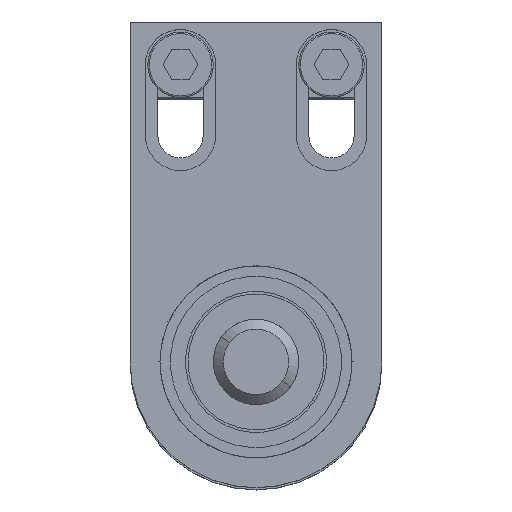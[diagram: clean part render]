
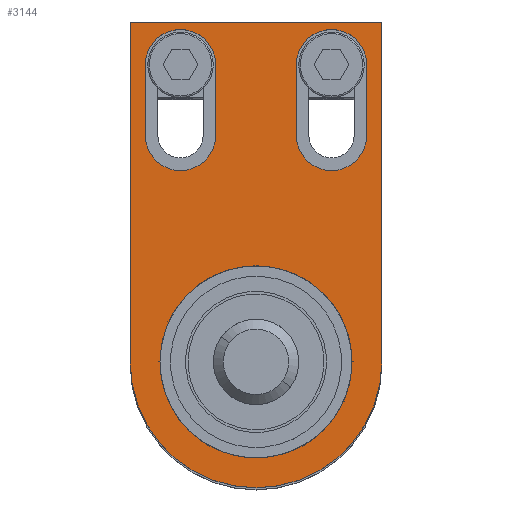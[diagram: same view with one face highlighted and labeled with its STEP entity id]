
A CAD part, top view. The second image highlights one B-rep face of the part: STEP entity #3144.
In plain terms, the highlighted planar face has unit normal (0, 0, 1).
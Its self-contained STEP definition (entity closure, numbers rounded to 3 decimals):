
#19 = VERTEX_POINT ( 'NONE', #1033 ) ;
#128 = ORIENTED_EDGE ( 'NONE', *, *, #3423, .F. ) ;
#135 = ORIENTED_EDGE ( 'NONE', *, *, #343, .F. ) ;
#138 = DIRECTION ( 'NONE',  ( 1., 0., 0. ) ) ;
#145 = EDGE_CURVE ( 'NONE', #5887, #2017, #1744, .T. ) ;
#206 = VERTEX_POINT ( 'NONE', #3414 ) ;
#246 = CARTESIAN_POINT ( 'NONE',  ( 22., 59., 6. ) ) ;
#249 = CARTESIAN_POINT ( 'NONE',  ( 8., 59., 6. ) ) ;
#250 = PLANE ( 'NONE',  #3759 ) ;
#299 = VERTEX_POINT ( 'NONE', #1528 ) ;
#336 = CARTESIAN_POINT ( 'NONE',  ( -15., 45., 6. ) ) ;
#343 = EDGE_CURVE ( 'NONE', #2751, #4804, #5224, .T. ) ;
#380 = CIRCLE ( 'NONE', #506, 7. ) ;
#425 = VERTEX_POINT ( 'NONE', #4595 ) ;
#506 = AXIS2_PLACEMENT_3D ( 'NONE', #2273, #3268, #1424 ) ;
#628 = VERTEX_POINT ( 'NONE', #2045 ) ;
#759 = ORIENTED_EDGE ( 'NONE', *, *, #2373, .T. ) ;
#806 = DIRECTION ( 'NONE',  ( 1., 0., 0. ) ) ;
#815 = EDGE_LOOP ( 'NONE', ( #4259, #3678 ) ) ;
#972 = DIRECTION ( 'NONE',  ( 0., 0., 1. ) ) ;
#1006 = AXIS2_PLACEMENT_3D ( 'NONE', #336, #4539, #806 ) ;
#1019 = ORIENTED_EDGE ( 'NONE', *, *, #5379, .T. ) ;
#1033 = CARTESIAN_POINT ( 'NONE',  ( 25., 67.5, 6. ) ) ;
#1067 = VECTOR ( 'NONE', #5845, 1000. ) ;
#1084 = ORIENTED_EDGE ( 'NONE', *, *, #3951, .T. ) ;
#1241 = CARTESIAN_POINT ( 'NONE',  ( 0., 0., 6. ) ) ;
#1249 = DIRECTION ( 'NONE',  ( 1., 0., 0. ) ) ;
#1277 = EDGE_LOOP ( 'NONE', ( #1467, #4465, #2387, #128 ) ) ;
#1410 = DIRECTION ( 'NONE',  ( -1., 0., 0. ) ) ;
#1415 = ORIENTED_EDGE ( 'NONE', *, *, #3098, .F. ) ;
#1424 = DIRECTION ( 'NONE',  ( 1., 0., 0. ) ) ;
#1467 = ORIENTED_EDGE ( 'NONE', *, *, #2180, .F. ) ;
#1528 = CARTESIAN_POINT ( 'NONE',  ( -25., 67.5, 6. ) ) ;
#1552 = DIRECTION ( 'NONE',  ( 0., 0., 1. ) ) ;
#1691 = AXIS2_PLACEMENT_3D ( 'NONE', #5603, #972, #4741 ) ;
#1719 = CARTESIAN_POINT ( 'NONE',  ( 0., 0., 6. ) ) ;
#1725 = FACE_BOUND ( 'NONE', #815, .T. ) ;
#1728 = CIRCLE ( 'NONE', #5604, 19.079 ) ;
#1744 = CIRCLE ( 'NONE', #1691, 19.079 ) ;
#1978 = CARTESIAN_POINT ( 'NONE',  ( -8., 45., 6. ) ) ;
#2004 = CARTESIAN_POINT ( 'NONE',  ( 25., 0., 6. ) ) ;
#2017 = VERTEX_POINT ( 'NONE', #4885 ) ;
#2045 = CARTESIAN_POINT ( 'NONE',  ( -22., 59., 6. ) ) ;
#2047 = CARTESIAN_POINT ( 'NONE',  ( 15., 45., 6. ) ) ;
#2126 = CARTESIAN_POINT ( 'NONE',  ( 8., 59., 6. ) ) ;
#2151 = CIRCLE ( 'NONE', #5799, 7. ) ;
#2161 = DIRECTION ( 'NONE',  ( 0., 0., 1. ) ) ;
#2180 = EDGE_CURVE ( 'NONE', #3640, #628, #2151, .T. ) ;
#2206 = EDGE_CURVE ( 'NONE', #2017, #5887, #1728, .T. ) ;
#2273 = CARTESIAN_POINT ( 'NONE',  ( 15., 59., 6. ) ) ;
#2278 = LINE ( 'NONE', #2126, #1067 ) ;
#2345 = LINE ( 'NONE', #3664, #5478 ) ;
#2347 = AXIS2_PLACEMENT_3D ( 'NONE', #2953, #3551, #138 ) ;
#2353 = VECTOR ( 'NONE', #3718, 1000. ) ;
#2373 = EDGE_CURVE ( 'NONE', #19, #299, #3533, .T. ) ;
#2387 = ORIENTED_EDGE ( 'NONE', *, *, #5419, .F. ) ;
#2480 = DIRECTION ( 'NONE',  ( 0., 1., 0. ) ) ;
#2633 = DIRECTION ( 'NONE',  ( 0., 0., 1. ) ) ;
#2648 = DIRECTION ( 'NONE',  ( 0., 0., 1. ) ) ;
#2682 = DIRECTION ( 'NONE',  ( 0., 1., 0. ) ) ;
#2711 = LINE ( 'NONE', #4584, #2353 ) ;
#2724 = EDGE_LOOP ( 'NONE', ( #4637, #135, #4131, #1415 ) ) ;
#2747 = CARTESIAN_POINT ( 'NONE',  ( 22., 45., 6. ) ) ;
#2751 = VERTEX_POINT ( 'NONE', #2747 ) ;
#2796 = FACE_OUTER_BOUND ( 'NONE', #5492, .T. ) ;
#2804 = ORIENTED_EDGE ( 'NONE', *, *, #3593, .T. ) ;
#2953 = CARTESIAN_POINT ( 'NONE',  ( 0., 0., 6. ) ) ;
#3055 = CIRCLE ( 'NONE', #3595, 7. ) ;
#3098 = EDGE_CURVE ( 'NONE', #5018, #206, #2278, .T. ) ;
#3144 = ADVANCED_FACE ( 'NONE', ( #5491, #4026, #1725, #2796 ), #250, .T. ) ;
#3268 = DIRECTION ( 'NONE',  ( 0., 0., 1. ) ) ;
#3414 = CARTESIAN_POINT ( 'NONE',  ( 8., 45., 6. ) ) ;
#3423 = EDGE_CURVE ( 'NONE', #628, #425, #2711, .T. ) ;
#3427 = CIRCLE ( 'NONE', #2347, 25. ) ;
#3475 = CARTESIAN_POINT ( 'NONE',  ( -8., 59., 6. ) ) ;
#3533 = LINE ( 'NONE', #4195, #3741 ) ;
#3543 = VERTEX_POINT ( 'NONE', #1978 ) ;
#3546 = VECTOR ( 'NONE', #5034, 1000. ) ;
#3551 = DIRECTION ( 'NONE',  ( 0., 0., 1. ) ) ;
#3568 = CARTESIAN_POINT ( 'NONE',  ( -8., 59., 6. ) ) ;
#3593 = EDGE_CURVE ( 'NONE', #4850, #19, #4986, .T. ) ;
#3595 = AXIS2_PLACEMENT_3D ( 'NONE', #2047, #1552, #5310 ) ;
#3640 = VERTEX_POINT ( 'NONE', #3475 ) ;
#3664 = CARTESIAN_POINT ( 'NONE',  ( -25., 0., 6. ) ) ;
#3678 = ORIENTED_EDGE ( 'NONE', *, *, #145, .F. ) ;
#3718 = DIRECTION ( 'NONE',  ( 0., -1., 0. ) ) ;
#3741 = VECTOR ( 'NONE', #1410, 1000. ) ;
#3759 = AXIS2_PLACEMENT_3D ( 'NONE', #1241, #2161, #5418 ) ;
#3951 = EDGE_CURVE ( 'NONE', #299, #4252, #2345, .T. ) ;
#4026 = FACE_BOUND ( 'NONE', #1277, .T. ) ;
#4131 = ORIENTED_EDGE ( 'NONE', *, *, #5367, .F. ) ;
#4195 = CARTESIAN_POINT ( 'NONE',  ( 25., 67.5, 6. ) ) ;
#4252 = VERTEX_POINT ( 'NONE', #5390 ) ;
#4259 = ORIENTED_EDGE ( 'NONE', *, *, #2206, .F. ) ;
#4465 = ORIENTED_EDGE ( 'NONE', *, *, #5844, .F. ) ;
#4539 = DIRECTION ( 'NONE',  ( 0., 0., 1. ) ) ;
#4569 = CARTESIAN_POINT ( 'NONE',  ( 19.079, 0., 6. ) ) ;
#4582 = VECTOR ( 'NONE', #2682, 1000. ) ;
#4584 = CARTESIAN_POINT ( 'NONE',  ( -22., 59., 6. ) ) ;
#4595 = CARTESIAN_POINT ( 'NONE',  ( -22., 45., 6. ) ) ;
#4637 = ORIENTED_EDGE ( 'NONE', *, *, #5976, .F. ) ;
#4682 = VECTOR ( 'NONE', #2480, 1000. ) ;
#4710 = DIRECTION ( 'NONE',  ( 0., -1., 0. ) ) ;
#4741 = DIRECTION ( 'NONE',  ( 1., 0., 0. ) ) ;
#4804 = VERTEX_POINT ( 'NONE', #5605 ) ;
#4850 = VERTEX_POINT ( 'NONE', #2004 ) ;
#4885 = CARTESIAN_POINT ( 'NONE',  ( -19.079, 0., 6. ) ) ;
#4986 = LINE ( 'NONE', #5270, #4682 ) ;
#5018 = VERTEX_POINT ( 'NONE', #249 ) ;
#5033 = LINE ( 'NONE', #3568, #4582 ) ;
#5034 = DIRECTION ( 'NONE',  ( 0., 1., 0. ) ) ;
#5224 = LINE ( 'NONE', #246, #3546 ) ;
#5270 = CARTESIAN_POINT ( 'NONE',  ( 25., 0., 6. ) ) ;
#5310 = DIRECTION ( 'NONE',  ( 1., 0., 0. ) ) ;
#5367 = EDGE_CURVE ( 'NONE', #206, #2751, #3055, .T. ) ;
#5379 = EDGE_CURVE ( 'NONE', #4252, #4850, #3427, .T. ) ;
#5390 = CARTESIAN_POINT ( 'NONE',  ( -25., 0., 6. ) ) ;
#5418 = DIRECTION ( 'NONE',  ( 1., 0., 0. ) ) ;
#5419 = EDGE_CURVE ( 'NONE', #425, #3543, #5622, .T. ) ;
#5478 = VECTOR ( 'NONE', #4710, 1000. ) ;
#5491 = FACE_BOUND ( 'NONE', #2724, .T. ) ;
#5492 = EDGE_LOOP ( 'NONE', ( #1019, #2804, #759, #1084 ) ) ;
#5603 = CARTESIAN_POINT ( 'NONE',  ( 0., 0., 6. ) ) ;
#5604 = AXIS2_PLACEMENT_3D ( 'NONE', #1719, #2633, #5929 ) ;
#5605 = CARTESIAN_POINT ( 'NONE',  ( 22., 59., 6. ) ) ;
#5622 = CIRCLE ( 'NONE', #1006, 7. ) ;
#5799 = AXIS2_PLACEMENT_3D ( 'NONE', #5893, #2648, #1249 ) ;
#5844 = EDGE_CURVE ( 'NONE', #3543, #3640, #5033, .T. ) ;
#5845 = DIRECTION ( 'NONE',  ( 0., -1., 0. ) ) ;
#5887 = VERTEX_POINT ( 'NONE', #4569 ) ;
#5893 = CARTESIAN_POINT ( 'NONE',  ( -15., 59., 6. ) ) ;
#5929 = DIRECTION ( 'NONE',  ( 1., 0., 0. ) ) ;
#5976 = EDGE_CURVE ( 'NONE', #4804, #5018, #380, .T. ) ;
